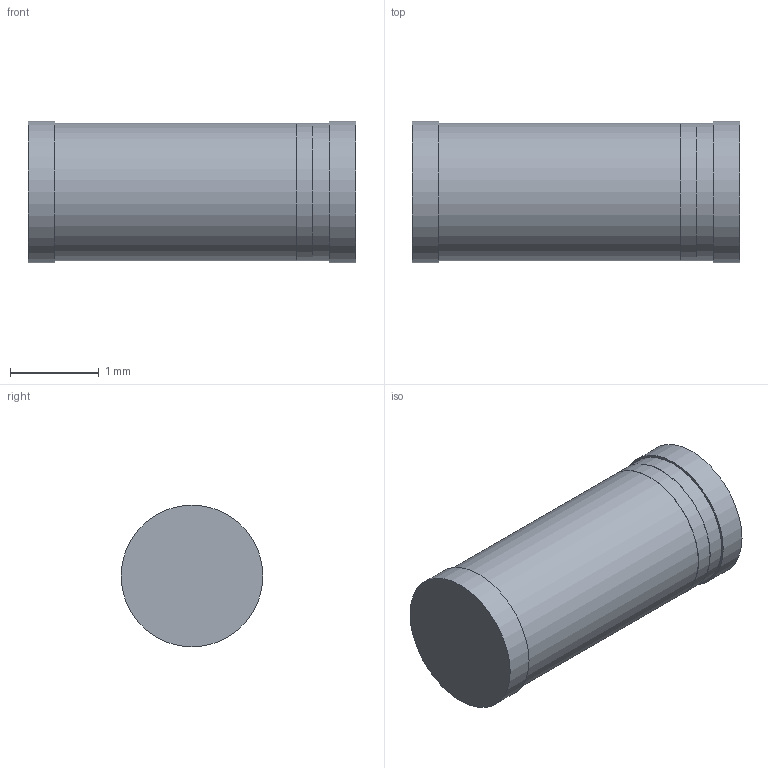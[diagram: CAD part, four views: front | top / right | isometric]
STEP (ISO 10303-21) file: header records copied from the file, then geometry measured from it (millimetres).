
FILE_DESCRIPTION(('STEP AP214'),'1');
FILE_NAME('SOD80C_NXP','2021-09-22T01:20:24',(''),(''),'','','');
FILE_SCHEMA(('AUTOMOTIVE_DESIGN'));
Length unit declared in the file: millimetre
Products named in the file (1): product
Bounding box: 3.7 x 1.6 x 1.6 mm (x, y, z)
Volume: 7.1 mm3; surface area: 31.7 mm2
Topology: 4 solids, 4 shells, 13 faces, 19 edges, 14 vertices
Faces by surface type: plane 8, cylinder 5
Full cylindrical faces by diameter (mm): 1.549 x2, 1.554 x1, 1.6 x2
Entity records: 342 total; most frequent: DIRECTION 62, CARTESIAN_POINT 39, AXIS2_PLACEMENT_3D 31, ORIENTED_EDGE 28, EDGE_LOOP 20, CIRCLE 14, VERTEX_POINT 14, EDGE_CURVE 14
